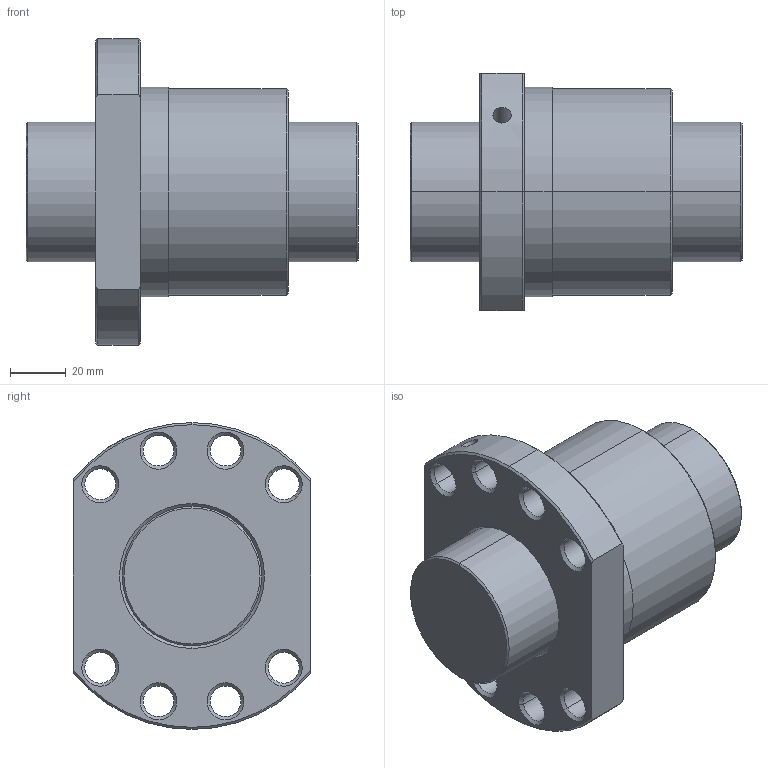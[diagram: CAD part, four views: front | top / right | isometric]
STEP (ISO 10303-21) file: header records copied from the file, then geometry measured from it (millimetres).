
FILE_DESCRIPTION(('no description'),'unknown implementation level');
FILE_NAME('R50_05T5_DEB_119_119_0_023_34.stp',' ',('HIWIN GmbH'),('CADClick - KiM GmbH - www.kimweb.de'),'unknown preprocess','ACIS','unknown authorization');
FILE_SCHEMA(('CONFIG_CONTROL_DESIGN'));
Length unit declared in the file: millimetre
Products named in the file (2): 1; 2
Bounding box: 119 x 85 x 110 mm (x, y, z)
Volume: 446745.3 mm3; surface area: 66208.9 mm2
Topology: 2 solids, 2 shells, 90 faces, 204 edges, 119 vertices
Faces by surface type: cone 52, cylinder 30, plane 8
Entity records: 2677 total; most frequent: CARTESIAN_POINT 496, DIRECTION 484, ORIENTED_EDGE 404, EDGE_CURVE 202, AXIS2_PLACEMENT_3D 200, VERTEX_POINT 119, EDGE_LOOP 111, CIRCLE 108
